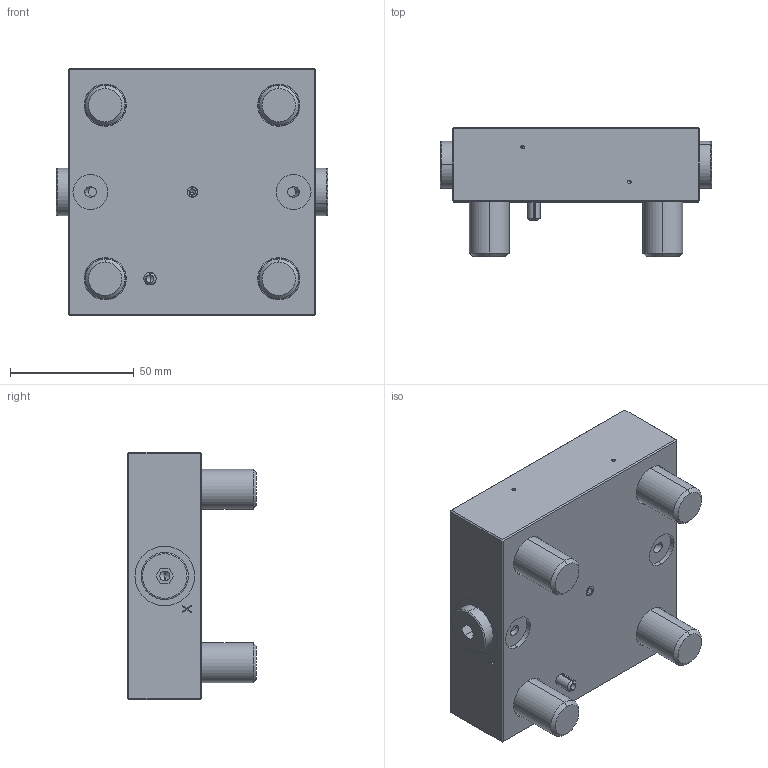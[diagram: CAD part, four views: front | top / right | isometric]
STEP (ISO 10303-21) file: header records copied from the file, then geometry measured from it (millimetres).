
FILE_DESCRIPTION (( 'STEP AP214' ), '1' );
FILE_NAME ('D32...3_2.STEP', '2017-03-17T13:09:10', ( '' ), ( '' ), 'SwSTEP 2.0', 'SolidWorks 2016', '' );
FILE_SCHEMA (( 'AUTOMOTIVE_DESIGN' ));
Length unit declared in the file: millimetre
Products named in the file (1): D32...3_2
Bounding box: 109.4 x 52 x 100 mm (x, y, z)
Volume: 302387.2 mm3; surface area: 58182 mm2
Topology: 6 solids, 8 shells, 316 faces, 709 edges, 424 vertices
Faces by surface type: plane 158, cylinder 94, cone 44, torus 20
Entity records: 12051 total; most frequent: DIRECTION 1573, CARTESIAN_POINT 1446, ORIENTED_EDGE 1362, EDGE_CURVE 681, AXIS2_PLACEMENT_3D 583, VERTEX_POINT 424, VECTOR 407, LINE 407
